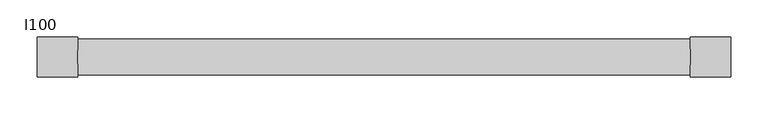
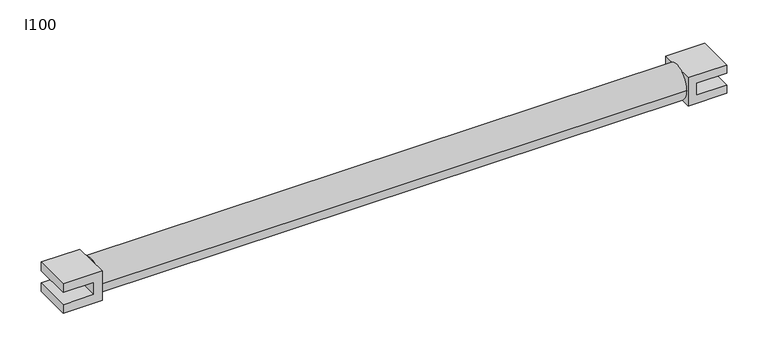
"""IFC4 building model written with IfcOpenShell, lengths in millimetres: proxy geometry, MILLS_ACRAM_LISSES : l100."""

from ifc_helpers import new_model, si_unit, point, frame, origin, origin_2d, place, context, project, spatial, polyline, circle_curve, trimmed, segment, composite_curve, outline, extrude, source, transform, mapped, element, save


def l100_80f0c97a(model_context):
    return source(origin(), model_context, "Body", "SweptSolid", [
        extrude(outline(polyline([(-21.859582, -1419.0299635), (21.859582, -1419.0299635), (21.859582, -1473.85193), (9.0, -1473.85193), (9.0, -1430.861632), (-9.0, -1430.861632), (-9.0, -1473.85193), (-21.859582, -1473.85193), (-21.859582, -1419.0299635)])), frame((0.0, -26.9, 0.0), z_axis=(0.0, 1.0, 0.0), x_axis=(0.0, 0.0, 1.0)), (0.0, 0.0, 1.0), 53.8),
        extrude(outline(polyline([(-21.0, -594.0299635), (-21.0, -539.2079969), (-9.0, -539.2079969), (-9.0, -582.1982949), (9.0, -582.1982949), (9.0, -539.2079969), (21.0, -539.2079969), (21.0, -594.0299635), (-21.0, -594.0299635)])), frame((0.0, -26.9, 0.0), z_axis=(0.0, 1.0, 0.0), x_axis=(0.0, 0.0, 1.0)), (0.0, 0.0, 1.0), 53.8),
        extrude(outline(composite_curve([segment(trimmed(circle_curve(origin_2d(), 24.15), [point((-24.15, 0.0))], [point((24.15, 0.0))], False, "CARTESIAN"), True, "CONTINUOUS"), segment(trimmed(circle_curve(origin_2d(), 24.15), [point((24.15, 0.0))], [point((-24.15, 0.0))], False, "CARTESIAN"), True, "CONTINUOUS")], self_intersect=False)), frame((-1419.0299635, 0.0, 0.0), z_axis=(1.0, 0.0, 0.0), x_axis=(0.0, 1.0, 0.0)), (0.0, 0.0, 1.0), 825.0),
    ])


if __name__ == "__main__":
    model = new_model("IFC4")
    model_context = context("Model", 3, world=origin())
    ifc_project = project(units=[si_unit("LENGTHUNIT", "METRE", prefix="MILLI")], contexts=[model_context])
    site = spatial("IfcSite", under=ifc_project)
    building = spatial("IfcBuilding", under=site)
    placement = place(None, origin())
    l100_shape = l100_80f0c97a(model_context)
    element("IfcBuildingElementProxy", 1, Name="MILLS_ACRAM_LISSES : l100", ObjectType="MILLS_ACRAM_LISSES : l100", at=placement, inside=building, context=model_context, shape_type="MappedRepresentation", body=[
        mapped(l100_shape, transform((0.0, 0.0, 0.0), x_axis=(1.0, 0.0, 0.0), y_axis=(0.0, 1.0, 0.0), z_axis=(0.0, 0.0, 1.0))),
    ])
    save(model, "model.ifc")
